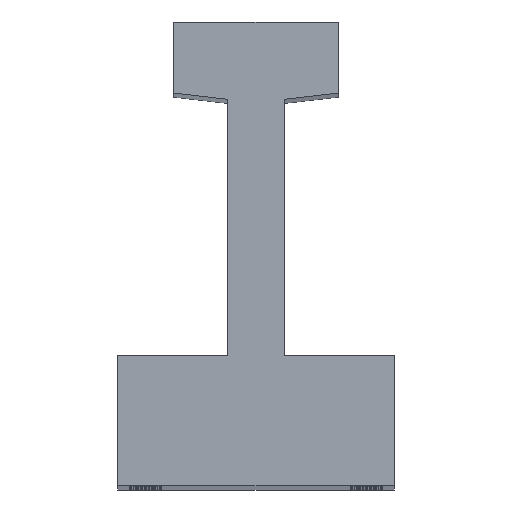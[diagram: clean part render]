
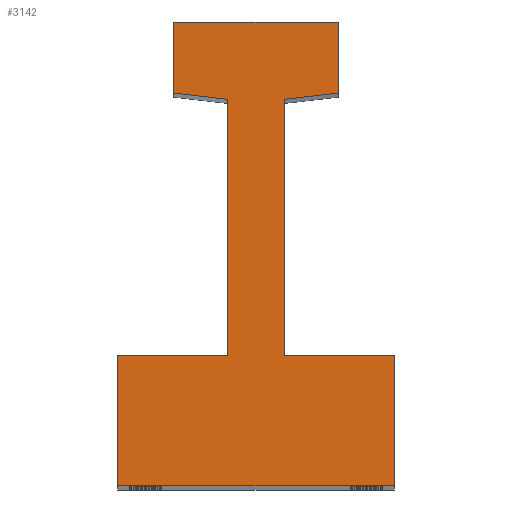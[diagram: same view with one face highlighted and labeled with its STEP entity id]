
A CAD part, top view. The second image highlights one B-rep face of the part: STEP entity #3142.
In plain terms, the highlighted planar face has unit normal (0, 0, 1).
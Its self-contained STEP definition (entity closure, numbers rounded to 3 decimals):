
#97 = VECTOR ( 'NONE', #3353, 1000. ) ;
#132 = VECTOR ( 'NONE', #563, 1000. ) ;
#215 = CARTESIAN_POINT ( 'NONE',  ( 10.4, 49.8, 301. ) ) ;
#241 = LINE ( 'NONE', #3969, #97 ) ;
#249 = VECTOR ( 'NONE', #3168, 1000. ) ;
#281 = CARTESIAN_POINT ( 'NONE',  ( 0., 0., 301. ) ) ;
#288 = EDGE_CURVE ( 'NONE', #2437, #2960, #241, .T. ) ;
#367 = CARTESIAN_POINT ( 'NONE',  ( 3.55, 16.5, 301. ) ) ;
#391 = LINE ( 'NONE', #367, #2442 ) ;
#409 = CARTESIAN_POINT ( 'NONE',  ( 10.4, 49.8, 301. ) ) ;
#423 = VERTEX_POINT ( 'NONE', #2858 ) ;
#445 = LINE ( 'NONE', #3049, #1180 ) ;
#538 = FACE_OUTER_BOUND ( 'NONE', #3586, .T. ) ;
#546 = EDGE_CURVE ( 'NONE', #3297, #2437, #2579, .T. ) ;
#547 = CARTESIAN_POINT ( 'NONE',  ( 17.5, 0., 301. ) ) ;
#563 = DIRECTION ( 'NONE',  ( -1., 0., 0. ) ) ;
#661 = CARTESIAN_POINT ( 'NONE',  ( 3.55, 49., 301. ) ) ;
#663 = CARTESIAN_POINT ( 'NONE',  ( -3.55, 16.5, 301. ) ) ;
#692 = VECTOR ( 'NONE', #1761, 1000. ) ;
#705 = CARTESIAN_POINT ( 'NONE',  ( -3.55, 49., 301. ) ) ;
#718 = ORIENTED_EDGE ( 'NONE', *, *, #3154, .T. ) ;
#783 = CARTESIAN_POINT ( 'NONE',  ( 3.55, 16.5, 301. ) ) ;
#814 = EDGE_CURVE ( 'NONE', #1201, #423, #3421, .T. ) ;
#840 = EDGE_CURVE ( 'NONE', #3928, #3291, #3143, .T. ) ;
#947 = LINE ( 'NONE', #547, #692 ) ;
#1001 = VECTOR ( 'NONE', #3124, 1000. ) ;
#1022 = CARTESIAN_POINT ( 'NONE',  ( 3.55, 49., 301. ) ) ;
#1025 = EDGE_CURVE ( 'NONE', #4041, #2533, #3109, .T. ) ;
#1139 = VECTOR ( 'NONE', #2021, 1000. ) ;
#1169 = CARTESIAN_POINT ( 'NONE',  ( -17.5, 16.5, 301. ) ) ;
#1180 = VECTOR ( 'NONE', #3345, 1000. ) ;
#1201 = VERTEX_POINT ( 'NONE', #2598 ) ;
#1235 = ORIENTED_EDGE ( 'NONE', *, *, #1500, .T. ) ;
#1257 = DIRECTION ( 'NONE',  ( 0., 1., 0. ) ) ;
#1311 = ORIENTED_EDGE ( 'NONE', *, *, #814, .T. ) ;
#1459 = ORIENTED_EDGE ( 'NONE', *, *, #288, .T. ) ;
#1462 = LINE ( 'NONE', #661, #3419 ) ;
#1500 = EDGE_CURVE ( 'NONE', #3730, #1201, #3555, .T. ) ;
#1643 = VECTOR ( 'NONE', #1965, 1000. ) ;
#1698 = ORIENTED_EDGE ( 'NONE', *, *, #3361, .T. ) ;
#1761 = DIRECTION ( 'NONE',  ( 1., 0., 0. ) ) ;
#1886 = DIRECTION ( 'NONE',  ( 0., 1., 0. ) ) ;
#1913 = VERTEX_POINT ( 'NONE', #2209 ) ;
#1965 = DIRECTION ( 'NONE',  ( 0.993, 0.116, 0. ) ) ;
#2021 = DIRECTION ( 'NONE',  ( 0.993, -0.116, 0. ) ) ;
#2204 = EDGE_CURVE ( 'NONE', #423, #1913, #2739, .T. ) ;
#2209 = CARTESIAN_POINT ( 'NONE',  ( -17.5, 0., 301. ) ) ;
#2309 = ORIENTED_EDGE ( 'NONE', *, *, #3639, .T. ) ;
#2331 = CARTESIAN_POINT ( 'NONE',  ( 17.5, 0., 301. ) ) ;
#2339 = VECTOR ( 'NONE', #1257, 1000. ) ;
#2437 = VERTEX_POINT ( 'NONE', #215 ) ;
#2442 = VECTOR ( 'NONE', #3171, 1000. ) ;
#2533 = VERTEX_POINT ( 'NONE', #2787 ) ;
#2579 = LINE ( 'NONE', #409, #1643 ) ;
#2598 = CARTESIAN_POINT ( 'NONE',  ( -3.55, 16.5, 301. ) ) ;
#2638 = ORIENTED_EDGE ( 'NONE', *, *, #1025, .T. ) ;
#2739 = LINE ( 'NONE', #2879, #249 ) ;
#2787 = CARTESIAN_POINT ( 'NONE',  ( -10.4, 49.8, 301. ) ) ;
#2803 = ORIENTED_EDGE ( 'NONE', *, *, #840, .T. ) ;
#2846 = ORIENTED_EDGE ( 'NONE', *, *, #546, .T. ) ;
#2858 = CARTESIAN_POINT ( 'NONE',  ( -17.5, 16.5, 301. ) ) ;
#2879 = CARTESIAN_POINT ( 'NONE',  ( -17.5, 0., 301. ) ) ;
#2886 = CARTESIAN_POINT ( 'NONE',  ( -10.4, 49.8, 301. ) ) ;
#2960 = VERTEX_POINT ( 'NONE', #3980 ) ;
#3049 = CARTESIAN_POINT ( 'NONE',  ( -10.4, 58.8, 301. ) ) ;
#3109 = LINE ( 'NONE', #2886, #1001 ) ;
#3113 = DIRECTION ( 'NONE',  ( -1., 0., 0. ) ) ;
#3124 = DIRECTION ( 'NONE',  ( 0., -1., 0. ) ) ;
#3137 = CARTESIAN_POINT ( 'NONE',  ( -3.55, 49., 301. ) ) ;
#3142 = ADVANCED_FACE ( 'NONE', ( #538 ), #3737, .F. ) ;
#3143 = LINE ( 'NONE', #3309, #2339 ) ;
#3154 = EDGE_CURVE ( 'NONE', #3410, #3297, #1462, .T. ) ;
#3168 = DIRECTION ( 'NONE',  ( 0., -1., 0. ) ) ;
#3171 = DIRECTION ( 'NONE',  ( -1., 0., 0. ) ) ;
#3255 = ORIENTED_EDGE ( 'NONE', *, *, #3375, .T. ) ;
#3275 = CARTESIAN_POINT ( 'NONE',  ( -10.4, 58.8, 301. ) ) ;
#3291 = VERTEX_POINT ( 'NONE', #3800 ) ;
#3297 = VERTEX_POINT ( 'NONE', #1022 ) ;
#3309 = CARTESIAN_POINT ( 'NONE',  ( 17.5, 16.5, 301. ) ) ;
#3321 = ORIENTED_EDGE ( 'NONE', *, *, #2204, .T. ) ;
#3345 = DIRECTION ( 'NONE',  ( -1., 0., 0. ) ) ;
#3353 = DIRECTION ( 'NONE',  ( 0., 1., 0. ) ) ;
#3361 = EDGE_CURVE ( 'NONE', #3291, #3410, #391, .T. ) ;
#3375 = EDGE_CURVE ( 'NONE', #2533, #3730, #3585, .T. ) ;
#3410 = VERTEX_POINT ( 'NONE', #783 ) ;
#3419 = VECTOR ( 'NONE', #1886, 1000. ) ;
#3421 = LINE ( 'NONE', #1169, #132 ) ;
#3428 = DIRECTION ( 'NONE',  ( 0., 0., -1. ) ) ;
#3462 = EDGE_CURVE ( 'NONE', #1913, #3928, #947, .T. ) ;
#3464 = DIRECTION ( 'NONE',  ( 0., -1., 0. ) ) ;
#3555 = LINE ( 'NONE', #663, #3690 ) ;
#3585 = LINE ( 'NONE', #705, #1139 ) ;
#3586 = EDGE_LOOP ( 'NONE', ( #3705, #2803, #1698, #718, #2846, #1459, #2309, #2638, #3255, #1235, #1311, #3321 ) ) ;
#3639 = EDGE_CURVE ( 'NONE', #2960, #4041, #445, .T. ) ;
#3690 = VECTOR ( 'NONE', #3464, 1000. ) ;
#3705 = ORIENTED_EDGE ( 'NONE', *, *, #3462, .T. ) ;
#3730 = VERTEX_POINT ( 'NONE', #3137 ) ;
#3737 = PLANE ( 'NONE',  #3930 ) ;
#3800 = CARTESIAN_POINT ( 'NONE',  ( 17.5, 16.5, 301. ) ) ;
#3928 = VERTEX_POINT ( 'NONE', #2331 ) ;
#3930 = AXIS2_PLACEMENT_3D ( 'NONE', #281, #3428, #3113 ) ;
#3969 = CARTESIAN_POINT ( 'NONE',  ( 10.4, 58.8, 301. ) ) ;
#3980 = CARTESIAN_POINT ( 'NONE',  ( 10.4, 58.8, 301. ) ) ;
#4041 = VERTEX_POINT ( 'NONE', #3275 ) ;
